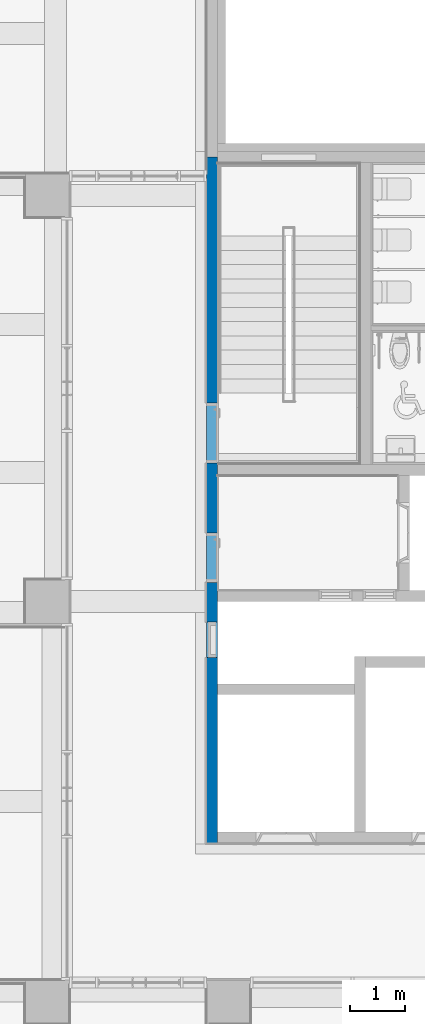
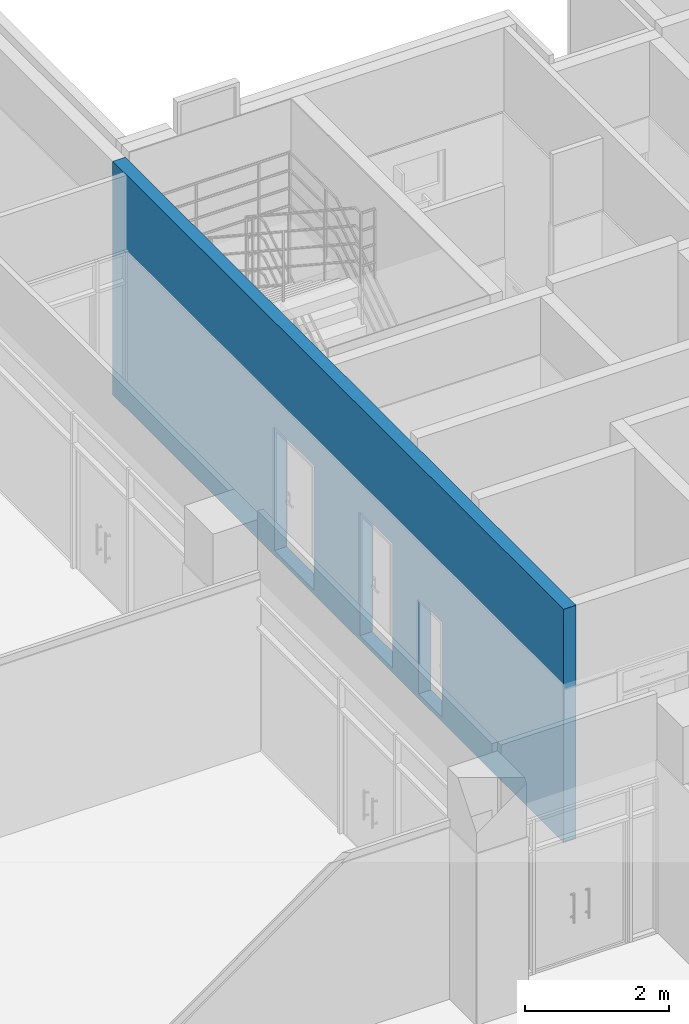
# One storey, part 55 of 81: 1 wall, 3 openings.
"""IFC2X3 building model written with IfcOpenShell, lengths in millimetres."""

from ifc_helpers import new_model, entity, si_unit, converted_unit, derived_unit, direction, frame, frame_2d, origin, place, context, subcontext, project, spatial, polyline, rectangle, extrude, clip, bounded_halfspace, material, layer, layer_set, layer_usage, type_object, element, save


model = new_model("IFC2X3")

# Units and contexts
model_context = context("Model", 3, precision=0.01, world=origin(), true_north=direction((6.123031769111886e-17, 1.0)))
body_context = subcontext(model_context, "Body", "Model", "MODEL_VIEW")
ifc_project = project(units=[si_unit("LENGTHUNIT", "METRE", prefix="MILLI"), si_unit("AREAUNIT", "SQUARE_METRE"), si_unit("VOLUMEUNIT", "CUBIC_METRE"), converted_unit("PLANEANGLEUNIT", "DEGREE", entity("IfcRatioMeasure", 0.017453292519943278), si_unit("PLANEANGLEUNIT", "RADIAN"), dimensions=[0, 0, 0, 0, 0, 0, 0]), si_unit("MASSUNIT", "GRAM", prefix="KILO"), derived_unit("MASSDENSITYUNIT", [(si_unit("MASSUNIT", "GRAM", prefix="KILO"), 1), (si_unit("LENGTHUNIT", "METRE"), -3)]), derived_unit("MOMENTOFINERTIAUNIT", [(si_unit("LENGTHUNIT", "METRE"), 4)]), si_unit("TIMEUNIT", "SECOND"), si_unit("FREQUENCYUNIT", "HERTZ"), si_unit("THERMODYNAMICTEMPERATUREUNIT", "DEGREE_CELSIUS"), derived_unit("THERMALTRANSMITTANCEUNIT", [(si_unit("MASSUNIT", "GRAM", prefix="KILO"), 1), (si_unit("THERMODYNAMICTEMPERATUREUNIT", "KELVIN"), -1), (si_unit("TIMEUNIT", "SECOND"), -3)]), derived_unit("VOLUMETRICFLOWRATEUNIT", [(si_unit("LENGTHUNIT", "METRE"), 3), (si_unit("TIMEUNIT", "SECOND"), -1)]), derived_unit("MASSFLOWRATEUNIT", [(si_unit("MASSUNIT", "GRAM", prefix="KILO"), 1), (si_unit("TIMEUNIT", "SECOND"), -1)]), derived_unit("ROTATIONALFREQUENCYUNIT", [(si_unit("TIMEUNIT", "SECOND"), -1)]), si_unit("ELECTRICCURRENTUNIT", "AMPERE"), si_unit("ELECTRICVOLTAGEUNIT", "VOLT"), si_unit("POWERUNIT", "WATT"), si_unit("FORCEUNIT", "NEWTON", prefix="KILO"), si_unit("ILLUMINANCEUNIT", "LUX"), si_unit("LUMINOUSFLUXUNIT", "LUMEN"), si_unit("LUMINOUSINTENSITYUNIT", "CANDELA"), derived_unit("USERDEFINED", [(si_unit("MASSUNIT", "GRAM", prefix="KILO"), -1), (si_unit("LENGTHUNIT", "METRE"), -2), (si_unit("TIMEUNIT", "SECOND"), 3), (si_unit("LUMINOUSFLUXUNIT", "LUMEN"), 1)]), derived_unit("SOUNDPOWERUNIT", [(si_unit("MASSUNIT", "GRAM", prefix="KILO"), 1), (si_unit("LENGTHUNIT", "METRE"), 2), (si_unit("TIMEUNIT", "SECOND"), -3)]), derived_unit("SOUNDPRESSUREUNIT", [(si_unit("MASSUNIT", "GRAM", prefix="KILO"), 1), (si_unit("LENGTHUNIT", "METRE"), -1), (si_unit("TIMEUNIT", "SECOND"), -2)]), derived_unit("LINEARVELOCITYUNIT", [(si_unit("LENGTHUNIT", "METRE"), 1), (si_unit("TIMEUNIT", "SECOND"), -1)]), si_unit("PRESSUREUNIT", "PASCAL"), derived_unit("USERDEFINED", [(si_unit("LENGTHUNIT", "METRE"), -2), (si_unit("MASSUNIT", "GRAM", prefix="KILO"), 1), (si_unit("TIMEUNIT", "SECOND"), -2)]), derived_unit("LINEARFORCEUNIT", [(si_unit("MASSUNIT", "GRAM", prefix="KILO"), 1), (si_unit("LENGTHUNIT", "METRE"), 1), (si_unit("TIMEUNIT", "SECOND"), -2), (si_unit("LENGTHUNIT", "METRE"), -1)]), derived_unit("PLANARFORCEUNIT", [(si_unit("MASSUNIT", "GRAM", prefix="KILO"), 1), (si_unit("LENGTHUNIT", "METRE"), 1), (si_unit("TIMEUNIT", "SECOND"), -2), (si_unit("LENGTHUNIT", "METRE"), -2)])], contexts=[model_context])

# Site, building, storey
site_placement = place(None, frame((-14167.972527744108, -657.2125860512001, 0.0)))
site = spatial("IfcSite", under=ifc_project, at=site_placement, Name="Default", CompositionType="ELEMENT")
building_placement = place(site_placement, origin())
building = spatial("IfcBuilding", under=site, at=building_placement, Name="Sample Building", CompositionType="ELEMENT")
storey_placement = place(building_placement, frame((0.0, 0.0, 13400.0)))
storey = spatial("IfcBuildingStorey", under=building, at=storey_placement, Name="지상 4층", CompositionType="ELEMENT", Elevation=13400.00000000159)

# Wall, openings
ifc_material = material(Name="KBIMS-콘크리트")
ifc_layer = layer(ifc_material, 200.0)
ifc_layer_set = layer_set([ifc_layer], Name="기본 벽:WA111-철근콘크리트구조 벽 200mm_CW1")
ifc_layer_usage = layer_usage(ifc_layer_set, "AXIS2", "NEGATIVE", 100.0)
wall_type = type_object("IfcWallType", Name="기본 벽:WA111-철근콘크리트구조 벽 200mm_CW1", PredefinedType="STANDARD", material=ifc_layer_set)
wall_placement = place(storey_placement, frame((30167.96376153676, 15557.30294707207, -2.3000097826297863e-09), z_axis=(0.0, 0.0, 1.0), x_axis=(0.0, 1.0, 0.0)))
wall = element("IfcWallStandardCase", 1, at=wall_placement, inside=storey, type_object=wall_type, material=ifc_layer_usage, Name="기본 벽:WA111-철근콘크리트구조 벽 200mm_CW1", ObjectType="기본 벽:WA111-철근콘크리트구조 벽 200mm_CW1", context=body_context, shape_type="Clipping", body=[
    clip(extrude(rectangle(XDim=12499.909360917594, YDim=200.00000000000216, at=frame_2d((6249.954680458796, -2.1671553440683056e-12), x_axis=(-1.0, 0.0))), origin(), (0.0, 0.0, 1.0), 3950.0000000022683), bounded_halfspace(frame((6899.909364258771, -100.0, 3950.0), z_axis=(0.0, 0.0, -1.0), x_axis=(0.0, -1.0, 0.0)), True, frame((6899.909364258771, -100.0, 3950.0), z_axis=(0.0, 0.0, -1.0), x_axis=(0.0, -1.0, 0.0)), polyline([(0.0, 0.0), (0.0, 60960.0), (0.0, 762000.0), (0.0, 2042160.0049346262), (0.0, 2103092.3742260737), (-60960.0, 2103092.374226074), (-60960.0, 2042159.910736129), (-60960.0, 822959.9068200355), (-60960.0, 701039.9068200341), (-60960.0, -1706880.0), (0.0, -1706880.0), (0.0, 0.0)]))),
])
opening_1_placement = place(wall_placement, frame((5649.874678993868, 100.0, 80.0)))
element("IfcOpeningElement", 2, at=opening_1_placement, cuts=wall, Name="DR111-외여닫이문(철재, 일반):DR111-외여닫이문(철재, 일반) 900x2100mm:1", ObjectType="Opening", context=body_context, shape_type="SweptSolid", body=[
    extrude(rectangle(XDim=2099.999999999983, YDim=900.0000000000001, at=frame_2d((1049.999999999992, 450.00000000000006), x_axis=(1.0, 0.0))), frame((0.0, 0.0, 0.0), z_axis=(0.0, -1.0, 0.0), x_axis=(0.0, 0.0, 1.0)), (0.0, 0.0, 1.0), 200.0),
])
opening_2_placement = place(wall_placement, frame((8019.874680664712, 100.0, 80.0)))
element("IfcOpeningElement", 3, at=opening_2_placement, cuts=wall, Name="DR111-외여닫이문(철재, 일반):DR111-외여닫이문(철재, 일반) 1100x2100mm 2:1", ObjectType="Opening", context=body_context, shape_type="SweptSolid", body=[
    extrude(rectangle(XDim=2099.999999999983, YDim=1100.0, at=frame_2d((1049.999999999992, 550.0), x_axis=(1.0, 0.0))), frame((0.0, 0.0, 0.0), z_axis=(0.0, -1.0, 0.0), x_axis=(0.0, 0.0, 1.0)), (0.0, 0.0, 1.0), 200.0),
])
opening_3_placement = place(wall_placement, frame((3374.8747316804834, -100.0, 80.0)))
element("IfcOpeningElement", 4, at=opening_3_placement, cuts=wall, Name="DR872-샤프트 점검구(스테인리스 스틸):DR872-샤프트 점검구(스테인리스 스틸)_650x1600:1", ObjectType="Opening", context=body_context, shape_type="SweptSolid", body=[
    extrude(rectangle(XDim=1600.0, YDim=649.9999999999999, at=frame_2d((800.0, 324.99999999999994), x_axis=(1.0, 0.0))), frame((0.0, 0.0, 0.0), z_axis=(0.0, 1.0, 0.0), x_axis=(0.0, 0.0, 1.0)), (0.0, 0.0, 1.0), 200.0),
])

save(model, "model.ifc")
